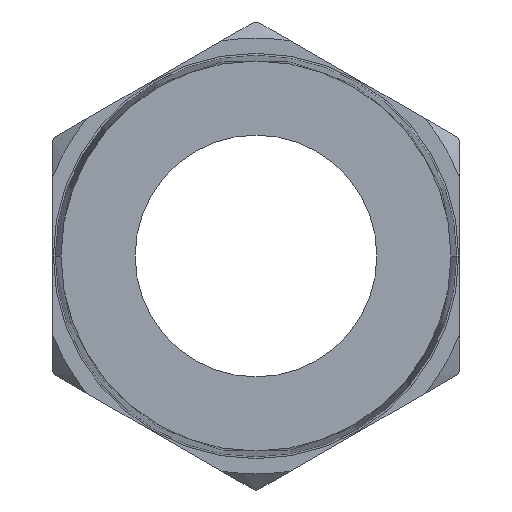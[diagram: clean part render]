
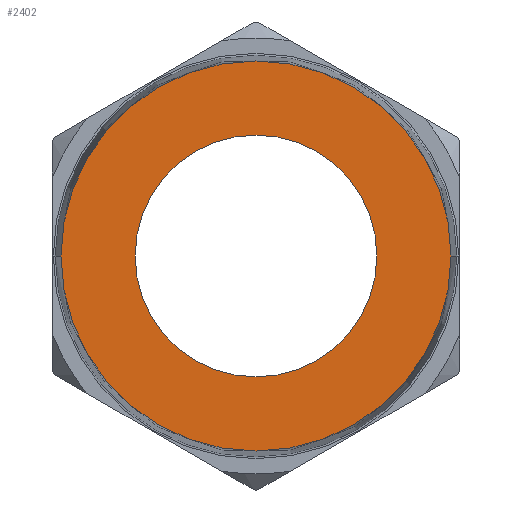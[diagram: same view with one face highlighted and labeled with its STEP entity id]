
A CAD part, front view. The second image highlights one B-rep face of the part: STEP entity #2402.
In plain terms, the highlighted planar face has unit normal (0, -1, 0).
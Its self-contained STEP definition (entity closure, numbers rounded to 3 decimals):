
#89 = AXIS2_PLACEMENT_3D ( 'NONE', #1056, #1272, #2184 ) ;
#90 = CARTESIAN_POINT ( 'NONE',  ( 4.816, -25.514, 0. ) ) ;
#261 = DIRECTION ( 'NONE',  ( 1., 0., 0. ) ) ;
#285 = ORIENTED_EDGE ( 'NONE', *, *, #1743, .T. ) ;
#287 = FACE_OUTER_BOUND ( 'NONE', #1217, .T. ) ;
#377 = FACE_BOUND ( 'NONE', #2090, .T. ) ;
#388 = DIRECTION ( 'NONE',  ( 1., 0., 0. ) ) ;
#525 = PLANE ( 'NONE',  #89 ) ;
#558 = AXIS2_PLACEMENT_3D ( 'NONE', #777, #593, #606 ) ;
#593 = DIRECTION ( 'NONE',  ( 0., 1., 0. ) ) ;
#606 = DIRECTION ( 'NONE',  ( 1., 0., 0. ) ) ;
#653 = VERTEX_POINT ( 'NONE', #90 ) ;
#696 = CIRCLE ( 'NONE', #817, 12.7 ) ;
#736 = AXIS2_PLACEMENT_3D ( 'NONE', #1929, #2079, #1567 ) ;
#777 = CARTESIAN_POINT ( 'NONE',  ( -7.884, -25.514, 0. ) ) ;
#790 = CARTESIAN_POINT ( 'NONE',  ( -7.884, -25.514, 0. ) ) ;
#817 = AXIS2_PLACEMENT_3D ( 'NONE', #790, #1737, #388 ) ;
#1022 = VERTEX_POINT ( 'NONE', #1749 ) ;
#1056 = CARTESIAN_POINT ( 'NONE',  ( -18.171, -25.514, 0. ) ) ;
#1185 = ORIENTED_EDGE ( 'NONE', *, *, #1847, .F. ) ;
#1217 = EDGE_LOOP ( 'NONE', ( #2346, #1185 ) ) ;
#1272 = DIRECTION ( 'NONE',  ( 0., -1., 0. ) ) ;
#1405 = ORIENTED_EDGE ( 'NONE', *, *, #1606, .T. ) ;
#1435 = CARTESIAN_POINT ( 'NONE',  ( -7.884, -25.514, 0. ) ) ;
#1500 = VERTEX_POINT ( 'NONE', #2080 ) ;
#1567 = DIRECTION ( 'NONE',  ( 1., 0., 0. ) ) ;
#1568 = CIRCLE ( 'NONE', #736, 12.7 ) ;
#1600 = EDGE_CURVE ( 'NONE', #653, #1500, #696, .T. ) ;
#1606 = EDGE_CURVE ( 'NONE', #1022, #2164, #2302, .T. ) ;
#1607 = DIRECTION ( 'NONE',  ( 0., 1., 0. ) ) ;
#1737 = DIRECTION ( 'NONE',  ( 0., 1., 0. ) ) ;
#1743 = EDGE_CURVE ( 'NONE', #2164, #1022, #2329, .T. ) ;
#1749 = CARTESIAN_POINT ( 'NONE',  ( -15.758, -25.514, 0. ) ) ;
#1847 = EDGE_CURVE ( 'NONE', #1500, #653, #1568, .T. ) ;
#1929 = CARTESIAN_POINT ( 'NONE',  ( -7.884, -25.514, 0. ) ) ;
#2079 = DIRECTION ( 'NONE',  ( 0., 1., 0. ) ) ;
#2080 = CARTESIAN_POINT ( 'NONE',  ( -20.584, -25.514, 0. ) ) ;
#2090 = EDGE_LOOP ( 'NONE', ( #285, #1405 ) ) ;
#2120 = CARTESIAN_POINT ( 'NONE',  ( -0.01, -25.514, 0. ) ) ;
#2164 = VERTEX_POINT ( 'NONE', #2120 ) ;
#2184 = DIRECTION ( 'NONE',  ( 0., 0., -1. ) ) ;
#2302 = CIRCLE ( 'NONE', #558, 7.874 ) ;
#2329 = CIRCLE ( 'NONE', #2388, 7.874 ) ;
#2346 = ORIENTED_EDGE ( 'NONE', *, *, #1600, .F. ) ;
#2388 = AXIS2_PLACEMENT_3D ( 'NONE', #1435, #1607, #261 ) ;
#2402 = ADVANCED_FACE ( 'NONE', ( #287, #377 ), #525, .T. ) ;
